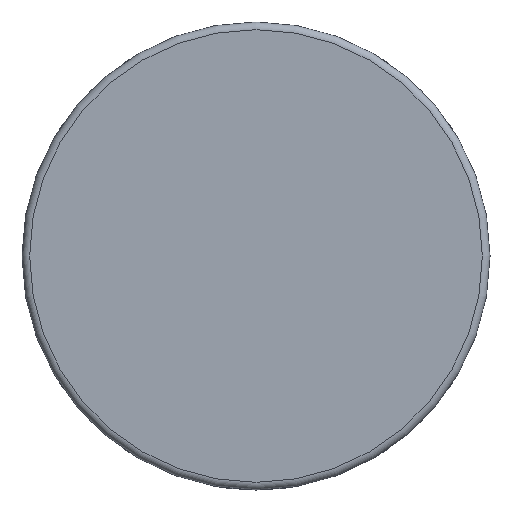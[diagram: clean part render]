
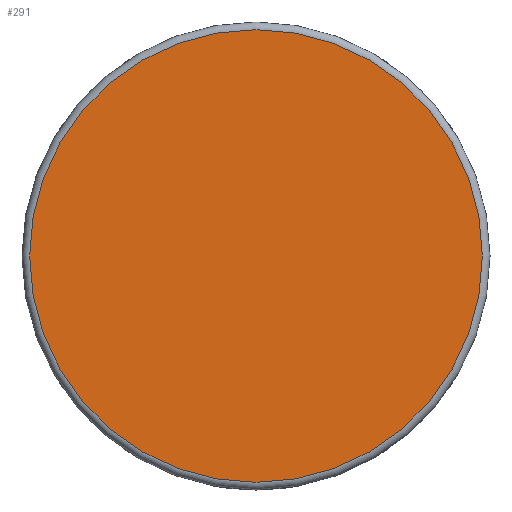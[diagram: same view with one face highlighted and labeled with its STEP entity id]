
A CAD part, front view. The second image highlights one B-rep face of the part: STEP entity #291.
In plain terms, the highlighted planar face has unit normal (0, -1, 0).
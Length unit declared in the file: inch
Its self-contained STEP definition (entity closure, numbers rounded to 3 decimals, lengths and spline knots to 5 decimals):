
#18=PLANE('',#331);
#51=FACE_OUTER_BOUND('',#68,.T.);
#68=EDGE_LOOP('',(#215,#216));
#86=CIRCLE('',#323,0.177);
#90=CIRCLE('',#327,0.177);
#124=VERTEX_POINT('',#576);
#125=VERTEX_POINT('',#577);
#157=EDGE_CURVE('',#124,#125,#86,.T.);
#161=EDGE_CURVE('',#125,#124,#90,.T.);
#215=ORIENTED_EDGE('',*,*,#157,.F.);
#216=ORIENTED_EDGE('',*,*,#161,.F.);
#291=ADVANCED_FACE('',(#51),#18,.T.);
#323=AXIS2_PLACEMENT_3D('',#578,#382,#383);
#327=AXIS2_PLACEMENT_3D('',#584,#390,#391);
#331=AXIS2_PLACEMENT_3D('',#591,#399,#400);
#382=DIRECTION('center_axis',(0.,1.,0.));
#383=DIRECTION('ref_axis',(0.,0.,1.));
#390=DIRECTION('center_axis',(0.,1.,0.));
#391=DIRECTION('ref_axis',(0.,0.,1.));
#399=DIRECTION('center_axis',(0.,-1.,0.));
#400=DIRECTION('ref_axis',(0.,0.,-1.));
#576=CARTESIAN_POINT('',(0.,0.,-0.177));
#577=CARTESIAN_POINT('',(0.,0.,0.177));
#578=CARTESIAN_POINT('Origin',(0.,0.,0.));
#584=CARTESIAN_POINT('Origin',(0.,0.,0.));
#591=CARTESIAN_POINT('Origin',(0.,0.,0.));
